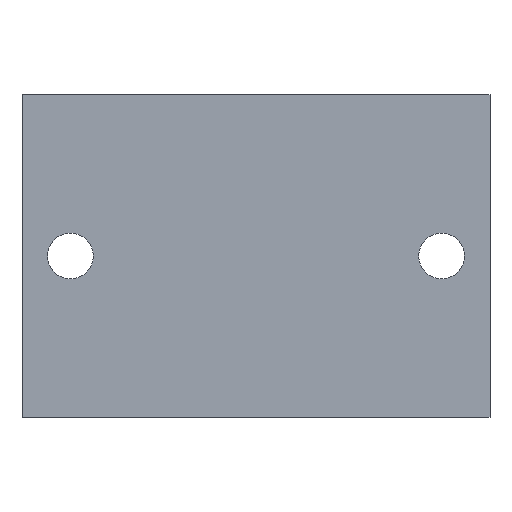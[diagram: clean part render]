
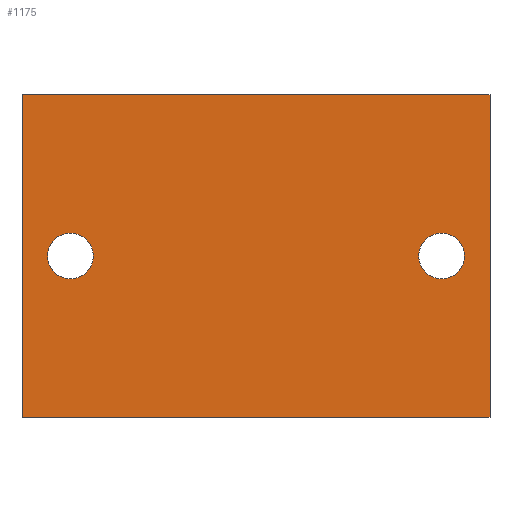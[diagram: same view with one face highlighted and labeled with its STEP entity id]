
A CAD part, front view. The second image highlights one B-rep face of the part: STEP entity #1175.
In plain terms, the highlighted planar face has unit normal (0, -1, 0).
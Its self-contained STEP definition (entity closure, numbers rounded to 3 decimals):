
#55 = LINE ( 'NONE', #405, #193 ) ;
#82 = DIRECTION ( 'NONE',  ( 1., 0., 0. ) ) ;
#113 = CARTESIAN_POINT ( 'NONE',  ( -43.5, -38., -30. ) ) ;
#139 = EDGE_LOOP ( 'NONE', ( #1488, #643, #313, #702 ) ) ;
#159 = CARTESIAN_POINT ( 'NONE',  ( 43.5, -38., -30. ) ) ;
#162 = VERTEX_POINT ( 'NONE', #1324 ) ;
#170 = EDGE_LOOP ( 'NONE', ( #1352, #178 ) ) ;
#178 = ORIENTED_EDGE ( 'NONE', *, *, #1240, .F. ) ;
#186 = VERTEX_POINT ( 'NONE', #303 ) ;
#193 = VECTOR ( 'NONE', #635, 1000. ) ;
#211 = EDGE_CURVE ( 'NONE', #1152, #357, #452, .T. ) ;
#225 = CIRCLE ( 'NONE', #875, 4.25 ) ;
#229 = DIRECTION ( 'NONE',  ( 0., 0., -1. ) ) ;
#239 = CARTESIAN_POINT ( 'NONE',  ( -34.5, -38., -4.25 ) ) ;
#303 = CARTESIAN_POINT ( 'NONE',  ( 43.5, -38., 30. ) ) ;
#313 = ORIENTED_EDGE ( 'NONE', *, *, #954, .F. ) ;
#323 = AXIS2_PLACEMENT_3D ( 'NONE', #1150, #1043, #1035 ) ;
#340 = CARTESIAN_POINT ( 'NONE',  ( 34.5, -38., 4.25 ) ) ;
#343 = VERTEX_POINT ( 'NONE', #159 ) ;
#357 = VERTEX_POINT ( 'NONE', #1176 ) ;
#370 = EDGE_CURVE ( 'NONE', #1110, #343, #55, .T. ) ;
#375 = ORIENTED_EDGE ( 'NONE', *, *, #211, .F. ) ;
#386 = CARTESIAN_POINT ( 'NONE',  ( -34.5, -38., 4.25 ) ) ;
#391 = VERTEX_POINT ( 'NONE', #386 ) ;
#395 = AXIS2_PLACEMENT_3D ( 'NONE', #807, #919, #912 ) ;
#405 = CARTESIAN_POINT ( 'NONE',  ( -43.5, -38., -30. ) ) ;
#423 = EDGE_CURVE ( 'NONE', #357, #1152, #535, .T. ) ;
#425 = DIRECTION ( 'NONE',  ( 0., 0., -1. ) ) ;
#452 = CIRCLE ( 'NONE', #1198, 4.25 ) ;
#502 = LINE ( 'NONE', #611, #1374 ) ;
#526 = DIRECTION ( 'NONE',  ( 0., 0., -1. ) ) ;
#535 = CIRCLE ( 'NONE', #1341, 4.25 ) ;
#587 = PLANE ( 'NONE',  #395 ) ;
#611 = CARTESIAN_POINT ( 'NONE',  ( -43.5, -38., 30. ) ) ;
#624 = EDGE_LOOP ( 'NONE', ( #767, #375 ) ) ;
#635 = DIRECTION ( 'NONE',  ( 1., 0., 0. ) ) ;
#643 = ORIENTED_EDGE ( 'NONE', *, *, #1450, .F. ) ;
#702 = ORIENTED_EDGE ( 'NONE', *, *, #933, .T. ) ;
#712 = VERTEX_POINT ( 'NONE', #239 ) ;
#745 = CARTESIAN_POINT ( 'NONE',  ( 34.5, -38., 0. ) ) ;
#759 = CARTESIAN_POINT ( 'NONE',  ( 34.5, -38., 0. ) ) ;
#767 = ORIENTED_EDGE ( 'NONE', *, *, #423, .F. ) ;
#777 = FACE_BOUND ( 'NONE', #170, .T. ) ;
#807 = CARTESIAN_POINT ( 'NONE',  ( -43.5, -38., 30. ) ) ;
#875 = AXIS2_PLACEMENT_3D ( 'NONE', #1050, #1272, #229 ) ;
#912 = DIRECTION ( 'NONE',  ( 0., 0., 1. ) ) ;
#919 = DIRECTION ( 'NONE',  ( 0., 1., 0. ) ) ;
#933 = EDGE_CURVE ( 'NONE', #162, #1110, #502, .T. ) ;
#954 = EDGE_CURVE ( 'NONE', #162, #186, #1472, .T. ) ;
#985 = DIRECTION ( 'NONE',  ( 0., -1., 0. ) ) ;
#991 = DIRECTION ( 'NONE',  ( 0., 0., -1. ) ) ;
#1014 = LINE ( 'NONE', #1485, #1248 ) ;
#1035 = DIRECTION ( 'NONE',  ( 0., 0., -1. ) ) ;
#1043 = DIRECTION ( 'NONE',  ( 0., -1., 0. ) ) ;
#1050 = CARTESIAN_POINT ( 'NONE',  ( -34.5, -38., 0. ) ) ;
#1110 = VERTEX_POINT ( 'NONE', #113 ) ;
#1150 = CARTESIAN_POINT ( 'NONE',  ( -34.5, -38., 0. ) ) ;
#1152 = VERTEX_POINT ( 'NONE', #340 ) ;
#1164 = CIRCLE ( 'NONE', #323, 4.25 ) ;
#1175 = ADVANCED_FACE ( 'NONE', ( #777, #1252, #1283 ), #587, .F. ) ;
#1176 = CARTESIAN_POINT ( 'NONE',  ( 34.5, -38., -4.25 ) ) ;
#1198 = AXIS2_PLACEMENT_3D ( 'NONE', #759, #985, #991 ) ;
#1201 = DIRECTION ( 'NONE',  ( 0., 0., -1. ) ) ;
#1240 = EDGE_CURVE ( 'NONE', #391, #712, #225, .T. ) ;
#1246 = VECTOR ( 'NONE', #82, 1000. ) ;
#1248 = VECTOR ( 'NONE', #425, 1000. ) ;
#1250 = EDGE_CURVE ( 'NONE', #712, #391, #1164, .T. ) ;
#1252 = FACE_BOUND ( 'NONE', #624, .T. ) ;
#1272 = DIRECTION ( 'NONE',  ( 0., -1., 0. ) ) ;
#1283 = FACE_OUTER_BOUND ( 'NONE', #139, .T. ) ;
#1324 = CARTESIAN_POINT ( 'NONE',  ( -43.5, -38., 30. ) ) ;
#1341 = AXIS2_PLACEMENT_3D ( 'NONE', #745, #1357, #526 ) ;
#1352 = ORIENTED_EDGE ( 'NONE', *, *, #1250, .F. ) ;
#1357 = DIRECTION ( 'NONE',  ( 0., -1., 0. ) ) ;
#1374 = VECTOR ( 'NONE', #1201, 1000. ) ;
#1450 = EDGE_CURVE ( 'NONE', #186, #343, #1014, .T. ) ;
#1464 = CARTESIAN_POINT ( 'NONE',  ( -43.5, -38., 30. ) ) ;
#1472 = LINE ( 'NONE', #1464, #1246 ) ;
#1485 = CARTESIAN_POINT ( 'NONE',  ( 43.5, -38., 30. ) ) ;
#1488 = ORIENTED_EDGE ( 'NONE', *, *, #370, .T. ) ;
